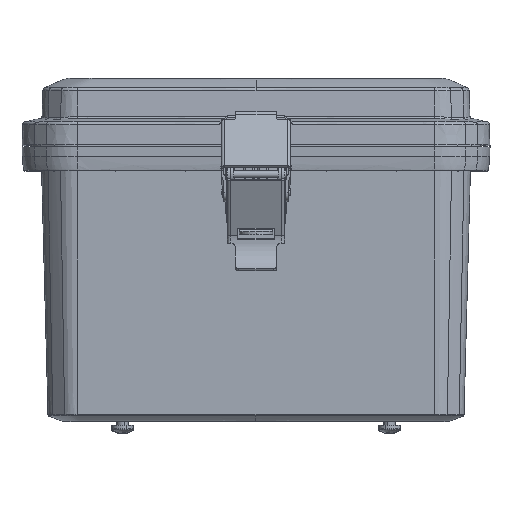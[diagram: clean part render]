
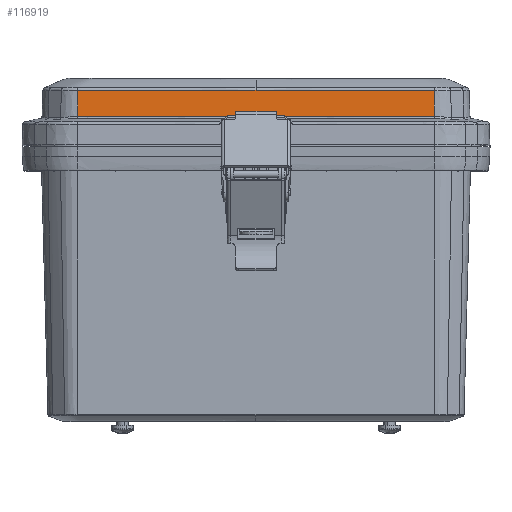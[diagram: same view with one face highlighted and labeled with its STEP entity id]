
A CAD part, top view. The second image highlights one B-rep face of the part: STEP entity #116919.
In plain terms, the highlighted planar face has unit normal (0, 0.035, 0.999).
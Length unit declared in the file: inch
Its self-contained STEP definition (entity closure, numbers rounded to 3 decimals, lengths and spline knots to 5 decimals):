
#456 = CARTESIAN_POINT ( 'NONE',  ( 2.75774, 0.4853, 3.60805 ) ) ;
#923 = CARTESIAN_POINT ( 'NONE',  ( 0., 0.9192, 3.5929 ) ) ;
#1825 = CARTESIAN_POINT ( 'NONE',  ( 0.50141, 0.91921, 3.5929 ) ) ;
#3470 = ORIENTED_EDGE ( 'NONE', *, *, #39161, .T. ) ;
#6958 = VECTOR ( 'NONE', #121782, 39.37008 ) ;
#8134 = CARTESIAN_POINT ( 'NONE',  ( -2.99277, 0.91948, 3.59289 ) ) ;
#10028 = VERTEX_POINT ( 'NONE', #119081 ) ;
#12323 = CARTESIAN_POINT ( 'NONE',  ( -3.00844, 0., 3.625 ) ) ;
#12339 = CARTESIAN_POINT ( 'NONE',  ( 2.85176, 0.48549, 3.60805 ) ) ;
#14583 = CARTESIAN_POINT ( 'NONE',  ( 2.50704, 0.91922, 3.5929 ) ) ;
#15496 = CARTESIAN_POINT ( 'NONE',  ( 3.00844, 0.91908, 3.59291 ) ) ;
#17304 = CARTESIAN_POINT ( 'NONE',  ( 2.99277, 0.91948, 3.59289 ) ) ;
#20076 = CARTESIAN_POINT ( 'NONE',  ( 0., 0.9192, 3.5929 ) ) ;
#21843 = CARTESIAN_POINT ( 'NONE',  ( -2.78908, 0.91923, 3.5929 ) ) ;
#22349 = CARTESIAN_POINT ( 'NONE',  ( -3.00844, 0.48144, 3.60819 ) ) ;
#23242 = CARTESIAN_POINT ( 'NONE',  ( -1.00284, 0.48531, 3.60805 ) ) ;
#25281 = CARTESIAN_POINT ( 'NONE',  ( 3.00844, 0.91908, 3.59291 ) ) ;
#26007 = CARTESIAN_POINT ( 'NONE',  ( 0.50141, 0.48541, 3.60805 ) ) ;
#27316 = EDGE_LOOP ( 'NONE', ( #140799, #50499, #152931, #46295, #3470, #167439 ) ) ;
#29321 = B_SPLINE_CURVE_WITH_KNOTS ( 'NONE', 3,
 ( #15496, #17304, #55617, #71120, #42835, #139557, #127674, #14583, #70213, #72021, #111327, #125887, #1825, #923 ),
 .UNSPECIFIED., .F., .F.,
 ( 4, 2, 1, 1, 2, 2, 2, 4 ),
 ( 0., 0.00119, 0.00239, 0.00478, 0.00955, 0.0191, 0.03821, 0.07641 ),
 .UNSPECIFIED. ) ;
#36400 = CARTESIAN_POINT ( 'NONE',  ( -0.50141, 0.91921, 3.5929 ) ) ;
#39161 = EDGE_CURVE ( 'NONE', #61040, #44631, #44604, .T. ) ;
#40743 = DIRECTION ( 'NONE',  ( 0., 0.035, 0.999 ) ) ;
#40956 = B_SPLINE_CURVE_WITH_KNOTS ( 'NONE', 3,
 ( #82493, #26007, #81606, #54260, #138197, #125426, #151905, #180169, #456, #55153, #12339, #87921, #60576, #46892, #157321, #156421 ),
 .UNSPECIFIED., .F., .F.,
 ( 4, 2, 2, 2, 2, 2, 2, 4 ),
 ( 0., 0.03821, 0.05731, 0.06686, 0.07164, 0.07283, 0.07403, 0.07641 ),
 .UNSPECIFIED. ) ;
#40965 = VERTEX_POINT ( 'NONE', #25281 ) ;
#42835 = CARTESIAN_POINT ( 'NONE',  ( 2.89876, 0.9193, 3.5929 ) ) ;
#44604 = B_SPLINE_CURVE_WITH_KNOTS ( 'NONE', 3,
 ( #22349, #92516, #109907, #175629, #52382, #107192, #122661, #165554, #119956, #133607, #162839, #179224, #148230, #23242, #78835, #176516 ),
 .UNSPECIFIED., .F., .F.,
 ( 4, 2, 2, 2, 2, 2, 2, 4 ),
 ( 0., 0.00239, 0.00358, 0.00478, 0.00955, 0.01911, 0.03821, 0.07642 ),
 .UNSPECIFIED. ) ;
#44631 = VERTEX_POINT ( 'NONE', #174997 ) ;
#45107 = EDGE_CURVE ( 'NONE', #44631, #10028, #40956, .T. ) ;
#46295 = ORIENTED_EDGE ( 'NONE', *, *, #120725, .T. ) ;
#46892 = CARTESIAN_POINT ( 'NONE',  ( 2.94577, 0.48478, 3.60807 ) ) ;
#50005 = AXIS2_PLACEMENT_3D ( 'NONE', #110131, #40743, #164878 ) ;
#50499 = ORIENTED_EDGE ( 'NONE', *, *, #153462, .T. ) ;
#52382 = CARTESIAN_POINT ( 'NONE',  ( -2.88317, 0.48557, 3.60804 ) ) ;
#52456 = VERTEX_POINT ( 'NONE', #101691 ) ;
#54260 = CARTESIAN_POINT ( 'NONE',  ( 1.75493, 0.48545, 3.60805 ) ) ;
#55153 = CARTESIAN_POINT ( 'NONE',  ( 2.83609, 0.48546, 3.60805 ) ) ;
#55617 = CARTESIAN_POINT ( 'NONE',  ( 2.9771, 0.91937, 3.5929 ) ) ;
#60576 = CARTESIAN_POINT ( 'NONE',  ( 2.89876, 0.48558, 3.60804 ) ) ;
#61040 = VERTEX_POINT ( 'NONE', #83698 ) ;
#62870 = CARTESIAN_POINT ( 'NONE',  ( -2.50704, 0.91922, 3.5929 ) ) ;
#63745 = CARTESIAN_POINT ( 'NONE',  ( -2.38168, 0.91927, 3.5929 ) ) ;
#63824 = EDGE_CURVE ( 'NONE', #40965, #10028, #71417, .T. ) ;
#64642 = CARTESIAN_POINT ( 'NONE',  ( -2.89876, 0.9193, 3.5929 ) ) ;
#70213 = CARTESIAN_POINT ( 'NONE',  ( 2.38168, 0.91927, 3.5929 ) ) ;
#71120 = CARTESIAN_POINT ( 'NONE',  ( 2.94577, 0.91934, 3.5929 ) ) ;
#71417 = LINE ( 'NONE', #98781, #98461 ) ;
#72021 = CARTESIAN_POINT ( 'NONE',  ( 2.00563, 0.91933, 3.5929 ) ) ;
#74780 = CARTESIAN_POINT ( 'NONE',  ( -2.69506, 0.91922, 3.5929 ) ) ;
#78835 = CARTESIAN_POINT ( 'NONE',  ( -0.50142, 0.48541, 3.60805 ) ) ;
#79962 = FACE_OUTER_BOUND ( 'NONE', #27316, .T. ) ;
#81606 = CARTESIAN_POINT ( 'NONE',  ( 1.00282, 0.48531, 3.60805 ) ) ;
#82493 = CARTESIAN_POINT ( 'NONE',  ( 0., 0.4854, 3.60805 ) ) ;
#82574 = EDGE_CURVE ( 'NONE', #52456, #92598, #138949, .T. ) ;
#83698 = CARTESIAN_POINT ( 'NONE',  ( -3.00844, 0.48144, 3.60819 ) ) ;
#87921 = CARTESIAN_POINT ( 'NONE',  ( 2.8831, 0.48557, 3.60804 ) ) ;
#89526 = CARTESIAN_POINT ( 'NONE',  ( -3.00844, 0.91908, 3.59291 ) ) ;
#92516 = CARTESIAN_POINT ( 'NONE',  ( -2.97716, 0.48344, 3.60812 ) ) ;
#92598 = VERTEX_POINT ( 'NONE', #89526 ) ;
#98461 = VECTOR ( 'NONE', #152657, 39.37008 ) ;
#98781 = CARTESIAN_POINT ( 'NONE',  ( 3.00844, 0., 3.625 ) ) ;
#101691 = CARTESIAN_POINT ( 'NONE',  ( 0., 0.9192, 3.5929 ) ) ;
#102176 = CARTESIAN_POINT ( 'NONE',  ( -2.94577, 0.91934, 3.5929 ) ) ;
#103073 = CARTESIAN_POINT ( 'NONE',  ( -1.00281, 0.91918, 3.5929 ) ) ;
#107192 = CARTESIAN_POINT ( 'NONE',  ( -2.85183, 0.48549, 3.60805 ) ) ;
#109907 = CARTESIAN_POINT ( 'NONE',  ( -2.94584, 0.48478, 3.60807 ) ) ;
#110131 = CARTESIAN_POINT ( 'NONE',  ( -3.00844, 0., 3.625 ) ) ;
#111327 = CARTESIAN_POINT ( 'NONE',  ( 1.75492, 0.91927, 3.5929 ) ) ;
#116792 = CARTESIAN_POINT ( 'NONE',  ( -1.75492, 0.91927, 3.5929 ) ) ;
#116919 = ADVANCED_FACE ( 'NONE', ( #79962 ), #134731, .T. ) ;
#118539 = CARTESIAN_POINT ( 'NONE',  ( -2.00563, 0.91933, 3.5929 ) ) ;
#119081 = CARTESIAN_POINT ( 'NONE',  ( 3.00844, 0.48144, 3.60819 ) ) ;
#119429 = CARTESIAN_POINT ( 'NONE',  ( -3.00844, 0.91908, 3.59291 ) ) ;
#119956 = CARTESIAN_POINT ( 'NONE',  ( -2.69514, 0.48524, 3.60806 ) ) ;
#120725 = EDGE_CURVE ( 'NONE', #92598, #61040, #124507, .T. ) ;
#121782 = DIRECTION ( 'NONE',  ( 0., -0.999, 0.035 ) ) ;
#122661 = CARTESIAN_POINT ( 'NONE',  ( -2.83616, 0.48546, 3.60805 ) ) ;
#124507 = LINE ( 'NONE', #12323, #6958 ) ;
#125426 = CARTESIAN_POINT ( 'NONE',  ( 2.38169, 0.48528, 3.60805 ) ) ;
#125887 = CARTESIAN_POINT ( 'NONE',  ( 1.00281, 0.91918, 3.5929 ) ) ;
#127674 = CARTESIAN_POINT ( 'NONE',  ( 2.69506, 0.91922, 3.5929 ) ) ;
#133089 = CARTESIAN_POINT ( 'NONE',  ( -2.9771, 0.91937, 3.5929 ) ) ;
#133607 = CARTESIAN_POINT ( 'NONE',  ( -2.5071, 0.48517, 3.60806 ) ) ;
#134731 = PLANE ( 'NONE',  #50005 ) ;
#138197 = CARTESIAN_POINT ( 'NONE',  ( 2.00563, 0.48555, 3.60804 ) ) ;
#138949 = B_SPLINE_CURVE_WITH_KNOTS ( 'NONE', 3,
 ( #20076, #36400, #103073, #116792, #118539, #63745, #62870, #74780, #21843, #64642, #102176, #133089, #8134, #119429 ),
 .UNSPECIFIED., .F., .F.,
 ( 4, 2, 2, 2, 1, 1, 2, 4 ),
 ( 0., 0.03821, 0.05731, 0.06686, 0.07164, 0.07403, 0.07522, 0.07641 ),
 .UNSPECIFIED. ) ;
#139557 = CARTESIAN_POINT ( 'NONE',  ( 2.78908, 0.91923, 3.5929 ) ) ;
#140799 = ORIENTED_EDGE ( 'NONE', *, *, #63824, .F. ) ;
#148230 = CARTESIAN_POINT ( 'NONE',  ( -1.75497, 0.48546, 3.60805 ) ) ;
#151905 = CARTESIAN_POINT ( 'NONE',  ( 2.50704, 0.48517, 3.60806 ) ) ;
#152657 = DIRECTION ( 'NONE',  ( 0., -0.999, 0.035 ) ) ;
#152931 = ORIENTED_EDGE ( 'NONE', *, *, #82574, .T. ) ;
#153462 = EDGE_CURVE ( 'NONE', #40965, #52456, #29321, .T. ) ;
#156421 = CARTESIAN_POINT ( 'NONE',  ( 3.00844, 0.48144, 3.60819 ) ) ;
#157321 = CARTESIAN_POINT ( 'NONE',  ( 2.97711, 0.48344, 3.60812 ) ) ;
#162839 = CARTESIAN_POINT ( 'NONE',  ( -2.38175, 0.48528, 3.60805 ) ) ;
#164878 = DIRECTION ( 'NONE',  ( 0., -0.999, 0.035 ) ) ;
#165554 = CARTESIAN_POINT ( 'NONE',  ( -2.75782, 0.4853, 3.60805 ) ) ;
#167439 = ORIENTED_EDGE ( 'NONE', *, *, #45107, .T. ) ;
#174997 = CARTESIAN_POINT ( 'NONE',  ( 0., 0.4854, 3.60805 ) ) ;
#175629 = CARTESIAN_POINT ( 'NONE',  ( -2.89884, 0.48557, 3.60804 ) ) ;
#176516 = CARTESIAN_POINT ( 'NONE',  ( 0., 0.4854, 3.60805 ) ) ;
#179224 = CARTESIAN_POINT ( 'NONE',  ( -2.00568, 0.48555, 3.60804 ) ) ;
#180169 = CARTESIAN_POINT ( 'NONE',  ( 2.69507, 0.48524, 3.60806 ) ) ;
